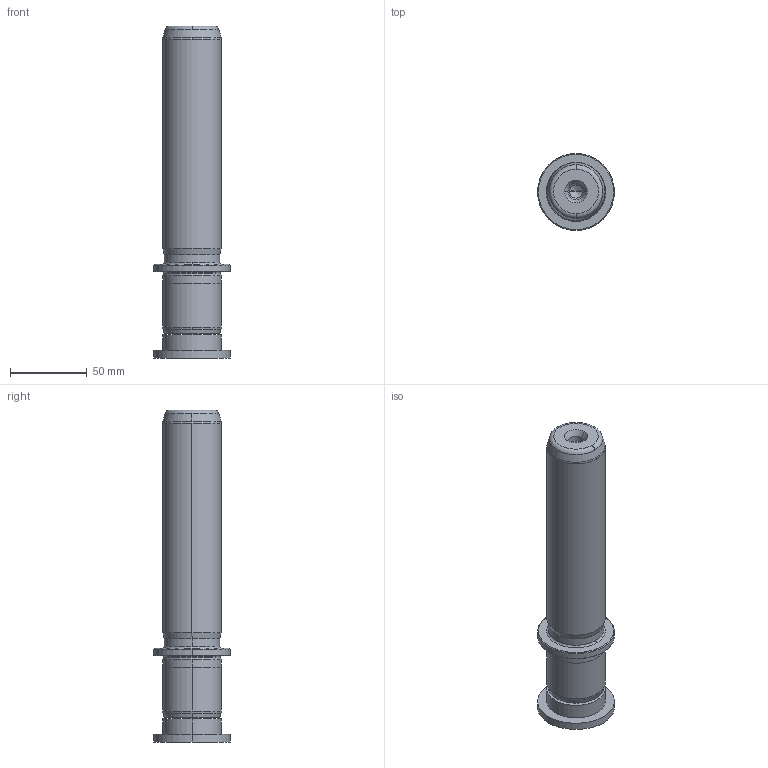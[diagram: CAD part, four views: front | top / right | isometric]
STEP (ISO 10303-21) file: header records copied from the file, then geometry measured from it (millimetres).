
FILE_DESCRIPTION((''),'2;1');
FILE_NAME('P22_038_160.stp','2009-02-16T09:15:30',(''),(''),'Mechanical Desktop 2009','Mechanical Desktop 2009',', , ');
FILE_SCHEMA(('CONFIG_CONTROL_DESIGN'));
Length unit declared in the file: millimetre
Products named in the file (2): Product; blmdl1
Assembly tree (1 placements, depth 2):
  Product
    blmdl1
Bounding box: 50 x 50 x 216 mm (x, y, z)
Volume: 246279.1 mm3; surface area: 37342.8 mm2
Topology: 3 solids, 3 shells, 99 faces, 237 edges, 149 vertices
Faces by surface type: cylinder 32, cone 28, plane 19, torus 10, bspline 10
Entity records: 3419 total; most frequent: CARTESIAN_POINT 923, DIRECTION 570, ORIENTED_EDGE 466, AXIS2_PLACEMENT_3D 246, EDGE_CURVE 233, CIRCLE 155, VERTEX_POINT 149, EDGE_LOOP 110
